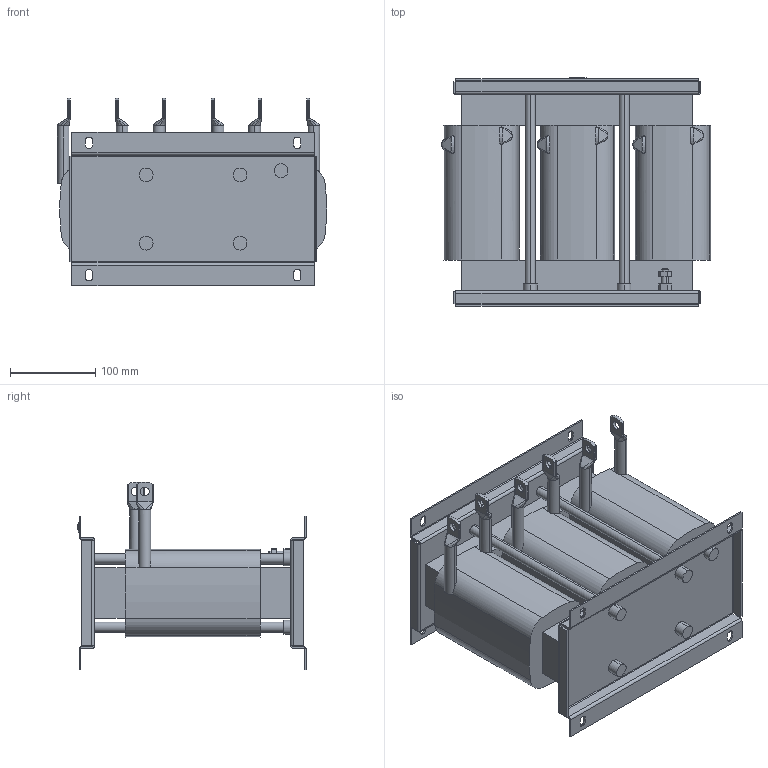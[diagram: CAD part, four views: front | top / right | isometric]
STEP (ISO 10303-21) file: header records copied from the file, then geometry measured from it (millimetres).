
FILE_DESCRIPTION (( 'STEP AP214' ), '1' );
FILE_NAME ('00Z20X0-0021.STEP', '2022-07-06T13:17:19', ( '' ), ( '' ), 'SwSTEP 2.0', 'SolidWorks 2022', '' );
FILE_SCHEMA (( 'AUTOMOTIVE_DESIGN' ));
Length unit declared in the file: centimetre
Products named in the file (1): 00Z20X0-0021
Bounding box: 315.25 x 267.52 x 219.97 mm (x, y, z)
Volume: 5548411.7 mm3; surface area: 521843.2 mm2
Topology: 1 solids, 1 shells, 443 faces, 1109 edges, 688 vertices
Faces by surface type: plane 210, cylinder 170, bspline 61, cone 2
Entity records: 17952 total; most frequent: CARTESIAN_POINT 7556, ORIENTED_EDGE 2218, DIRECTION 1899, EDGE_CURVE 1109, VERTEX_POINT 688, AXIS2_PLACEMENT_3D 679, VECTOR 541, LINE 541
